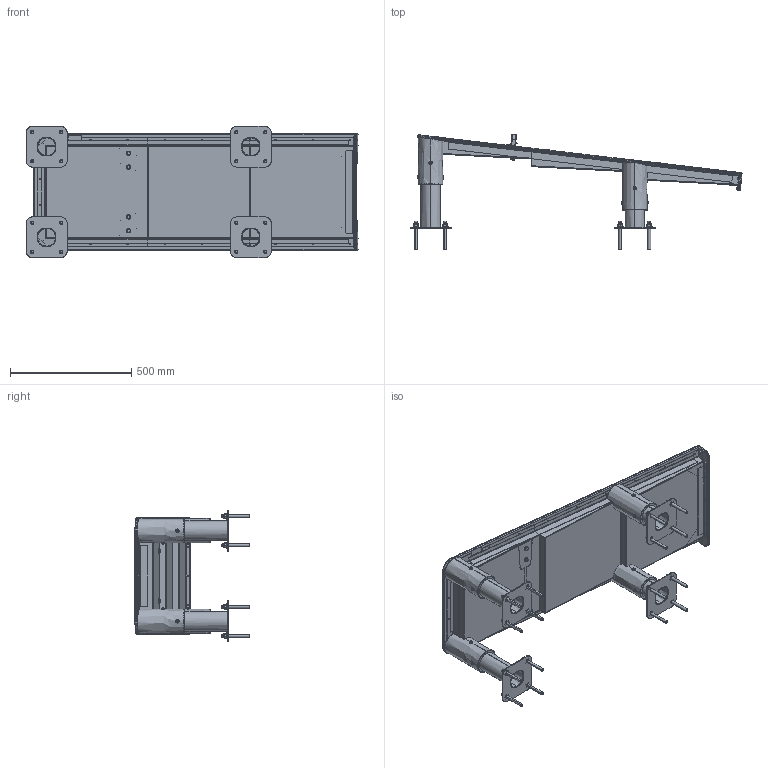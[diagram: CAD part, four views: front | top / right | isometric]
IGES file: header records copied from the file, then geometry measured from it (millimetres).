
Start section: SolidWorks IGES file using analytic representation for surfaces
Global section: file name: C:\Users\user25\Desktop\klient modele\570.204.010.011 - Waterfall FA.IGS; native system: SolidWorks 2018; preprocessor: SolidWorks 2018; author: user25; date: 210325.121045; units: millimetre
Bounding box: 1371.34 x 475.05 x 544.39 mm (x, y, z)
Surface area: 3234511.3 mm2 (no closed solid volume)
Topology: 0 solids, 0 shells, 1467 faces, 19687 edges, 19625 vertices
Faces by surface type: revolution 745, bspline 722
